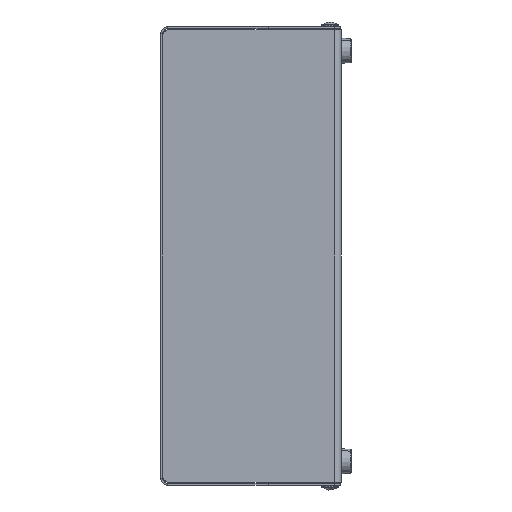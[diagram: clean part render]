
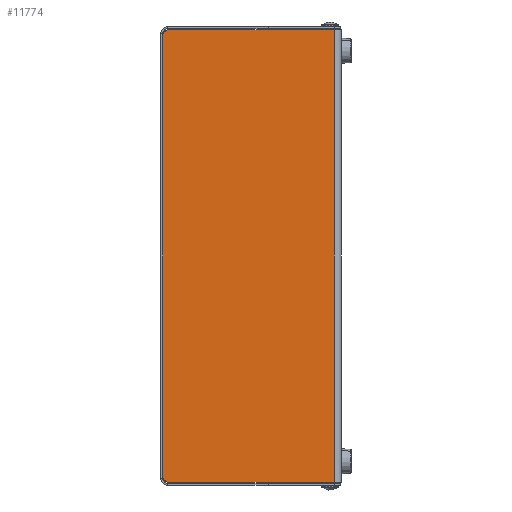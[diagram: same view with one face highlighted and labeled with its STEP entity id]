
A CAD part, left-side view. The second image highlights one B-rep face of the part: STEP entity #11774.
In plain terms, the highlighted planar face has unit normal (-1, 0, 0).
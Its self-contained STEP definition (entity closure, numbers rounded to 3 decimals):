
#202 = CARTESIAN_POINT ( 'NONE',  ( -59.4, 41.5, -223. ) ) ;
#421 = DIRECTION ( 'NONE',  ( 0., 0., 1. ) ) ;
#436 = PLANE ( 'NONE',  #4350 ) ;
#535 = ORIENTED_EDGE ( 'NONE', *, *, #11160, .T. ) ;
#848 = LINE ( 'NONE', #9543, #2109 ) ;
#918 = DIRECTION ( 'NONE',  ( 0., 0., 1. ) ) ;
#994 = VERTEX_POINT ( 'NONE', #6363 ) ;
#1302 = VERTEX_POINT ( 'NONE', #11839 ) ;
#1499 = VERTEX_POINT ( 'NONE', #2601 ) ;
#1780 = CARTESIAN_POINT ( 'NONE',  ( -59.4, 44.5, -226. ) ) ;
#2109 = VECTOR ( 'NONE', #918, 1000. ) ;
#2190 = VECTOR ( 'NONE', #8722, 1000. ) ;
#2488 = AXIS2_PLACEMENT_3D ( 'NONE', #10606, #3790, #8948 ) ;
#2601 = CARTESIAN_POINT ( 'NONE',  ( -59.4, 41.5, 0. ) ) ;
#2939 = LINE ( 'NONE', #9624, #2190 ) ;
#3299 = EDGE_CURVE ( 'NONE', #1302, #10465, #4032, .T. ) ;
#3589 = ORIENTED_EDGE ( 'NONE', *, *, #4801, .F. ) ;
#3790 = DIRECTION ( 'NONE',  ( -1., 0., 0. ) ) ;
#4032 = CIRCLE ( 'NONE', #9685, 3. ) ;
#4350 = AXIS2_PLACEMENT_3D ( 'NONE', #4412, #10148, #11991 ) ;
#4383 = ORIENTED_EDGE ( 'NONE', *, *, #6058, .F. ) ;
#4412 = CARTESIAN_POINT ( 'NONE',  ( -59.4, 44.5, -226. ) ) ;
#4682 = VECTOR ( 'NONE', #5636, 1000. ) ;
#4801 = EDGE_CURVE ( 'NONE', #1302, #8065, #5088, .T. ) ;
#4952 = DIRECTION ( 'NONE',  ( -1., 0., 0. ) ) ;
#5088 = LINE ( 'NONE', #7230, #6139 ) ;
#5306 = CIRCLE ( 'NONE', #2488, 3. ) ;
#5351 = EDGE_CURVE ( 'NONE', #1499, #8065, #5306, .T. ) ;
#5444 = CARTESIAN_POINT ( 'NONE',  ( -59.4, -41., 0. ) ) ;
#5636 = DIRECTION ( 'NONE',  ( 0., -1., 0. ) ) ;
#5768 = EDGE_LOOP ( 'NONE', ( #4383, #9954, #3589, #11261, #11327, #535 ) ) ;
#6058 = EDGE_CURVE ( 'NONE', #1499, #10433, #2939, .T. ) ;
#6139 = VECTOR ( 'NONE', #421, 1000. ) ;
#6363 = CARTESIAN_POINT ( 'NONE',  ( -59.4, -41., -226. ) ) ;
#6893 = DIRECTION ( 'NONE',  ( 0., -1., 0. ) ) ;
#7230 = CARTESIAN_POINT ( 'NONE',  ( -59.4, 44.5, -226. ) ) ;
#7541 = EDGE_CURVE ( 'NONE', #10465, #994, #8588, .T. ) ;
#7974 = CARTESIAN_POINT ( 'NONE',  ( -59.4, 41.5, -226. ) ) ;
#8056 = FACE_OUTER_BOUND ( 'NONE', #5768, .T. ) ;
#8065 = VERTEX_POINT ( 'NONE', #9051 ) ;
#8588 = LINE ( 'NONE', #1780, #4682 ) ;
#8722 = DIRECTION ( 'NONE',  ( 0., -1., 0. ) ) ;
#8948 = DIRECTION ( 'NONE',  ( 0., -1., 0. ) ) ;
#9051 = CARTESIAN_POINT ( 'NONE',  ( -59.4, 44.5, -3. ) ) ;
#9543 = CARTESIAN_POINT ( 'NONE',  ( -59.4, -41., -226. ) ) ;
#9624 = CARTESIAN_POINT ( 'NONE',  ( -59.4, 44.5, 0. ) ) ;
#9685 = AXIS2_PLACEMENT_3D ( 'NONE', #202, #4952, #6893 ) ;
#9954 = ORIENTED_EDGE ( 'NONE', *, *, #5351, .T. ) ;
#10148 = DIRECTION ( 'NONE',  ( -1., 0., 0. ) ) ;
#10433 = VERTEX_POINT ( 'NONE', #5444 ) ;
#10465 = VERTEX_POINT ( 'NONE', #7974 ) ;
#10606 = CARTESIAN_POINT ( 'NONE',  ( -59.4, 41.5, -3. ) ) ;
#11160 = EDGE_CURVE ( 'NONE', #994, #10433, #848, .T. ) ;
#11261 = ORIENTED_EDGE ( 'NONE', *, *, #3299, .T. ) ;
#11327 = ORIENTED_EDGE ( 'NONE', *, *, #7541, .T. ) ;
#11774 = ADVANCED_FACE ( 'NONE', ( #8056 ), #436, .T. ) ;
#11839 = CARTESIAN_POINT ( 'NONE',  ( -59.4, 44.5, -223. ) ) ;
#11991 = DIRECTION ( 'NONE',  ( 0., -1., 0. ) ) ;
